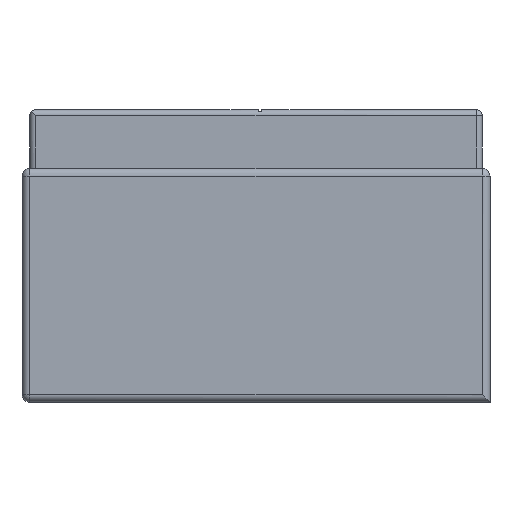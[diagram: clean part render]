
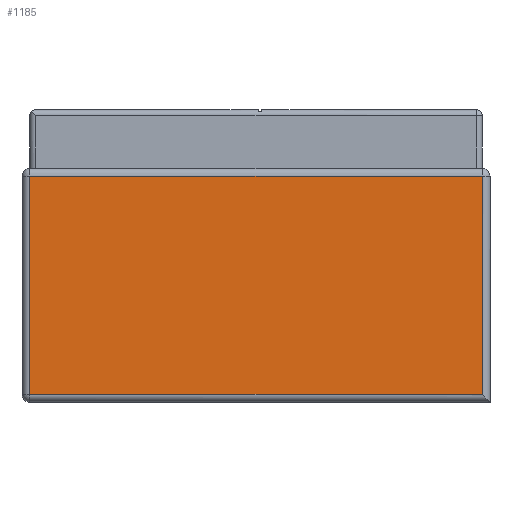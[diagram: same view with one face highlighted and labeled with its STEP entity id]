
A CAD part, front view. The second image highlights one B-rep face of the part: STEP entity #1185.
In plain terms, the highlighted planar face has unit normal (0, -1, 0).
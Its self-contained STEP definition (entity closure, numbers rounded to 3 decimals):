
#19 = CARTESIAN_POINT ( 'NONE',  ( 5.8, -15., 0.2 ) ) ;
#49 = VERTEX_POINT ( 'NONE', #1523 ) ;
#72 = DIRECTION ( 'NONE',  ( -1., 0., 0. ) ) ;
#85 = ORIENTED_EDGE ( 'NONE', *, *, #853, .T. ) ;
#226 = DIRECTION ( 'NONE',  ( 0., 0., 1. ) ) ;
#243 = EDGE_CURVE ( 'NONE', #49, #1165, #1711, .T. ) ;
#265 = ORIENTED_EDGE ( 'NONE', *, *, #243, .T. ) ;
#340 = CARTESIAN_POINT ( 'NONE',  ( -5.8, -15., 6. ) ) ;
#397 = ORIENTED_EDGE ( 'NONE', *, *, #668, .T. ) ;
#505 = VECTOR ( 'NONE', #1559, 1000. ) ;
#510 = DIRECTION ( 'NONE',  ( 0., 1., 0. ) ) ;
#537 = EDGE_LOOP ( 'NONE', ( #397, #85, #873, #265 ) ) ;
#565 = VECTOR ( 'NONE', #72, 1000. ) ;
#642 = DIRECTION ( 'NONE',  ( 0., 0., 1. ) ) ;
#668 = EDGE_CURVE ( 'NONE', #1165, #1394, #826, .T. ) ;
#686 = CARTESIAN_POINT ( 'NONE',  ( 6., -15., 0.2 ) ) ;
#760 = CARTESIAN_POINT ( 'NONE',  ( -5.8, -15., 5.8 ) ) ;
#823 = CARTESIAN_POINT ( 'NONE',  ( -5.8, -15., 0.2 ) ) ;
#826 = LINE ( 'NONE', #340, #505 ) ;
#846 = LINE ( 'NONE', #686, #1053 ) ;
#853 = EDGE_CURVE ( 'NONE', #1394, #1267, #846, .T. ) ;
#873 = ORIENTED_EDGE ( 'NONE', *, *, #1642, .T. ) ;
#890 = CARTESIAN_POINT ( 'NONE',  ( -6., -15., 6. ) ) ;
#1024 = AXIS2_PLACEMENT_3D ( 'NONE', #890, #510, #642 ) ;
#1029 = PLANE ( 'NONE',  #1024 ) ;
#1053 = VECTOR ( 'NONE', #1615, 1000. ) ;
#1157 = FACE_OUTER_BOUND ( 'NONE', #537, .T. ) ;
#1159 = CARTESIAN_POINT ( 'NONE',  ( 5.8, -15., 6. ) ) ;
#1165 = VERTEX_POINT ( 'NONE', #760 ) ;
#1185 = ADVANCED_FACE ( 'NONE', ( #1157 ), #1029, .F. ) ;
#1235 = LINE ( 'NONE', #1159, #1456 ) ;
#1262 = CARTESIAN_POINT ( 'NONE',  ( -6., -15., 5.8 ) ) ;
#1267 = VERTEX_POINT ( 'NONE', #19 ) ;
#1394 = VERTEX_POINT ( 'NONE', #823 ) ;
#1456 = VECTOR ( 'NONE', #226, 1000. ) ;
#1523 = CARTESIAN_POINT ( 'NONE',  ( 5.8, -15., 5.8 ) ) ;
#1559 = DIRECTION ( 'NONE',  ( 0., 0., -1. ) ) ;
#1615 = DIRECTION ( 'NONE',  ( 1., 0., 0. ) ) ;
#1642 = EDGE_CURVE ( 'NONE', #1267, #49, #1235, .T. ) ;
#1711 = LINE ( 'NONE', #1262, #565 ) ;
